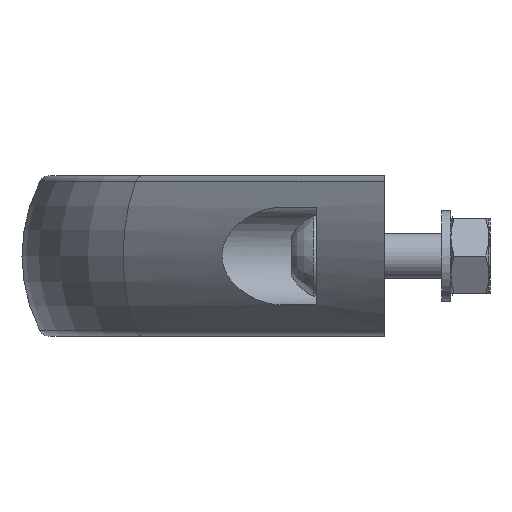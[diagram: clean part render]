
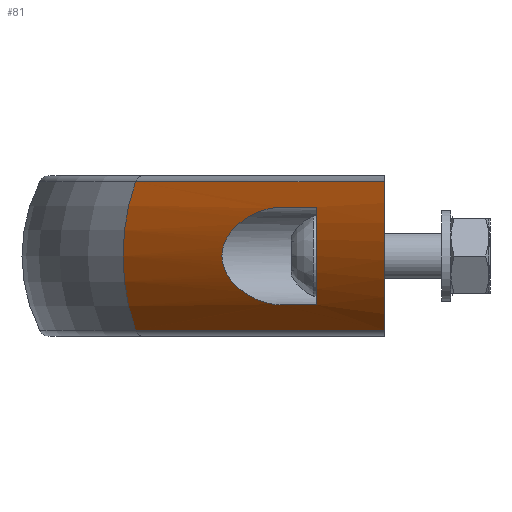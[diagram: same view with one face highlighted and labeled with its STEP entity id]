
A CAD part, left-side view. The second image highlights one B-rep face of the part: STEP entity #81.
In plain terms, the highlighted cylindrical face has radius 28.5 mm (diameter 57 mm), a partial arc.
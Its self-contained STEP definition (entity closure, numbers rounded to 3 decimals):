
#81 = ADVANCED_FACE( '', ( #217, #218 ), #219, .T. );
#217 = FACE_OUTER_BOUND( '', #510, .T. );
#218 = FACE_BOUND( '', #511, .T. );
#219 = CYLINDRICAL_SURFACE( '', #512, 28.5 );
#510 = EDGE_LOOP( '', ( #925, #926, #927, #928 ) );
#511 = EDGE_LOOP( '', ( #929, #930, #931, #932 ) );
#512 = AXIS2_PLACEMENT_3D( '', #933, #934, #935 );
#925 = ORIENTED_EDGE( '', *, *, #1792, .F. );
#926 = ORIENTED_EDGE( '', *, *, #1793, .T. );
#927 = ORIENTED_EDGE( '', *, *, #1794, .F. );
#928 = ORIENTED_EDGE( '', *, *, #1789, .F. );
#929 = ORIENTED_EDGE( '', *, *, #1795, .F. );
#930 = ORIENTED_EDGE( '', *, *, #1796, .F. );
#931 = ORIENTED_EDGE( '', *, *, #1797, .F. );
#932 = ORIENTED_EDGE( '', *, *, #1798, .F. );
#933 = CARTESIAN_POINT( '', ( -248.43, -69.007, 0. ) );
#934 = DIRECTION( '', ( -0.707, -0.707, 0. ) );
#935 = DIRECTION( '', ( -0.707, 0.707, 0. ) );
#1789 = EDGE_CURVE( '', #2083, #2086, #2087, .T. );
#1792 = EDGE_CURVE( '', #2091, #2083, #2092, .T. );
#1793 = EDGE_CURVE( '', #2091, #2093, #2094, .T. );
#1794 = EDGE_CURVE( '', #2086, #2093, #2095, .T. );
#1795 = EDGE_CURVE( '', #2096, #2097, #2098, .F. );
#1796 = EDGE_CURVE( '', #2099, #2096, #2100, .T. );
#1797 = EDGE_CURVE( '', #2101, #2099, #2102, .T. );
#1798 = EDGE_CURVE( '', #2097, #2101, #2103, .T. );
#2083 = VERTEX_POINT( '', #2632 );
#2086 = VERTEX_POINT( '', #2635 );
#2087 = LINE( '', #2636, #2637 );
#2091 = VERTEX_POINT( '', #2642 );
#2092 = ELLIPSE( '', #2643, 40.305, 28.5 );
#2093 = VERTEX_POINT( '', #2644 );
#2094 = LINE( '', #2645, #2646 );
#2095 = CIRCLE( '', #2647, 28.5 );
#2096 = VERTEX_POINT( '', #2648 );
#2097 = VERTEX_POINT( '', #2649 );
#2098 = LINE( '', #2650, #2651 );
#2099 = VERTEX_POINT( '', #2652 );
#2100 = B_SPLINE_CURVE_WITH_KNOTS( '', 3, ( #2653, #2654, #2655, #2656, #2657, #2658, #2659, #2660, #2661, #2662, #2663, #2664, #2665, #2666, #2667, #2668, #2669, #2670, #2671, #2672, #2673, #2674, #2675, #2676, #2677, #2678, #2679, #2680, #2681, #2682, #2683, #2684, #2685, #2686, #2687, #2688, #2689, #2690, #2691, #2692, #2693, #2694, #2695, #2696, #2697, #2698, #2699, #2700, #2701, #2702, #2703, #2704, #2705, #2706 ), .UNSPECIFIED., .F., .F., ( 4, 2, 2, 2, 2, 2, 2, 2, 2, 2, 2, 2, 2, 2, 2, 2, 2, 2, 2, 2, 2, 2, 2, 2, 2, 2, 4 ), ( 0.011, 0.013, 0.015, 0.017, 0.018, 0.02, 0.021, 0.022, 0.024, 0.025, 0.026, 0.027, 0.028, 0.028, 0.029, 0.031, 0.032, 0.033, 0.034, 0.035, 0.037, 0.038, 0.039, 0.041, 0.044, 0.045, 0.046 ), .UNSPECIFIED. );
#2101 = VERTEX_POINT( '', #2707 );
#2102 = LINE( '', #2708, #2709 );
#2103 = ELLIPSE( '', #2710, 40.305, 28.5 );
#2632 = CARTESIAN_POINT( '', ( -215.359, 0., -12.906 ) );
#2635 = CARTESIAN_POINT( '', ( -172.117, 43.242, -12.906 ) );
#2636 = CARTESIAN_POINT( '', ( -266.398, -51.039, -12.906 ) );
#2637 = VECTOR( '', #3357, 1000. );
#2642 = CARTESIAN_POINT( '', ( -215.359, 0., 12.906 ) );
#2643 = AXIS2_PLACEMENT_3D( '', #3362, #3363, #3364 );
#2644 = CARTESIAN_POINT( '', ( -172.117, 43.242, 12.906 ) );
#2645 = CARTESIAN_POINT( '', ( -266.398, -51.039, 12.906 ) );
#2646 = VECTOR( '', #3365, 1000. );
#2647 = AXIS2_PLACEMENT_3D( '', #3366, #3367, #3368 );
#2648 = CARTESIAN_POINT( '', ( -200., 17.893, -8.5 ) );
#2649 = CARTESIAN_POINT( '', ( -206.093, 11.8, -8.5 ) );
#2650 = CARTESIAN_POINT( '', ( -267.665, -49.772, -8.5 ) );
#2651 = VECTOR( '', #3369, 1000. );
#2652 = CARTESIAN_POINT( '', ( -200., 17.893, 8.5 ) );
#2653 = CARTESIAN_POINT( '', ( -200., 17.893, 8.5 ) );
#2654 = CARTESIAN_POINT( '', ( -199.492, 18.402, 8.5 ) );
#2655 = CARTESIAN_POINT( '', ( -198.997, 18.917, 8.455 ) );
#2656 = CARTESIAN_POINT( '', ( -198.03, 19.958, 8.283 ) );
#2657 = CARTESIAN_POINT( '', ( -197.559, 20.484, 8.157 ) );
#2658 = CARTESIAN_POINT( '', ( -196.866, 21.28, 7.905 ) );
#2659 = CARTESIAN_POINT( '', ( -196.639, 21.546, 7.811 ) );
#2660 = CARTESIAN_POINT( '', ( -196.194, 22.073, 7.604 ) );
#2661 = CARTESIAN_POINT( '', ( -195.977, 22.334, 7.491 ) );
#2662 = CARTESIAN_POINT( '', ( -195.336, 23.114, 7.123 ) );
#2663 = CARTESIAN_POINT( '', ( -194.927, 23.626, 6.84 ) );
#2664 = CARTESIAN_POINT( '', ( -194.34, 24.377, 6.346 ) );
#2665 = CARTESIAN_POINT( '', ( -194.148, 24.624, 6.171 ) );
#2666 = CARTESIAN_POINT( '', ( -193.775, 25.113, 5.794 ) );
#2667 = CARTESIAN_POINT( '', ( -193.592, 25.354, 5.591 ) );
#2668 = CARTESIAN_POINT( '', ( -193.066, 26.055, 4.947 ) );
#2669 = CARTESIAN_POINT( '', ( -192.744, 26.492, 4.47 ) );
#2670 = CARTESIAN_POINT( '', ( -192.319, 27.078, 3.653 ) );
#2671 = CARTESIAN_POINT( '', ( -192.189, 27.259, 3.367 ) );
#2672 = CARTESIAN_POINT( '', ( -191.956, 27.584, 2.766 ) );
#2673 = CARTESIAN_POINT( '', ( -191.854, 27.727, 2.451 ) );
#2674 = CARTESIAN_POINT( '', ( -191.683, 27.969, 1.786 ) );
#2675 = CARTESIAN_POINT( '', ( -191.615, 28.064, 1.44 ) );
#2676 = CARTESIAN_POINT( '', ( -191.547, 28.161, 0.911 ) );
#2677 = CARTESIAN_POINT( '', ( -191.53, 28.186, 0.733 ) );
#2678 = CARTESIAN_POINT( '', ( -191.506, 28.219, 0.372 ) );
#2679 = CARTESIAN_POINT( '', ( -191.5, 28.228, 0.188 ) );
#2680 = CARTESIAN_POINT( '', ( -191.5, 28.228, -0.357 ) );
#2681 = CARTESIAN_POINT( '', ( -191.523, 28.196, -0.715 ) );
#2682 = CARTESIAN_POINT( '', ( -191.612, 28.068, -1.423 ) );
#2683 = CARTESIAN_POINT( '', ( -191.68, 27.973, -1.772 ) );
#2684 = CARTESIAN_POINT( '', ( -191.849, 27.734, -2.435 ) );
#2685 = CARTESIAN_POINT( '', ( -191.952, 27.59, -2.754 ) );
#2686 = CARTESIAN_POINT( '', ( -192.186, 27.263, -3.361 ) );
#2687 = CARTESIAN_POINT( '', ( -192.316, 27.083, -3.646 ) );
#2688 = CARTESIAN_POINT( '', ( -192.596, 26.697, -4.186 ) );
#2689 = CARTESIAN_POINT( '', ( -192.746, 26.491, -4.441 ) );
#2690 = CARTESIAN_POINT( '', ( -193.066, 26.057, -4.924 ) );
#2691 = CARTESIAN_POINT( '', ( -193.235, 25.829, -5.154 ) );
#2692 = CARTESIAN_POINT( '', ( -193.759, 25.131, -5.797 ) );
#2693 = CARTESIAN_POINT( '', ( -194.131, 24.644, -6.17 ) );
#2694 = CARTESIAN_POINT( '', ( -194.72, 23.891, -6.666 ) );
#2695 = CARTESIAN_POINT( '', ( -194.921, 23.636, -6.82 ) );
#2696 = CARTESIAN_POINT( '', ( -195.334, 23.12, -7.109 ) );
#2697 = CARTESIAN_POINT( '', ( -195.547, 22.858, -7.244 ) );
#2698 = CARTESIAN_POINT( '', ( -196.193, 22.071, -7.616 ) );
#2699 = CARTESIAN_POINT( '', ( -196.636, 21.546, -7.821 ) );
#2700 = CARTESIAN_POINT( '', ( -197.548, 20.496, -8.153 ) );
#2701 = CARTESIAN_POINT( '', ( -198.018, 19.972, -8.28 ) );
#2702 = CARTESIAN_POINT( '', ( -198.744, 19.188, -8.41 ) );
#2703 = CARTESIAN_POINT( '', ( -198.991, 18.928, -8.444 ) );
#2704 = CARTESIAN_POINT( '', ( -199.491, 18.408, -8.488 ) );
#2705 = CARTESIAN_POINT( '', ( -199.745, 18.148, -8.5 ) );
#2706 = CARTESIAN_POINT( '', ( -200., 17.893, -8.5 ) );
#2707 = CARTESIAN_POINT( '', ( -206.093, 11.8, 8.5 ) );
#2708 = CARTESIAN_POINT( '', ( -267.665, -49.772, 8.5 ) );
#2709 = VECTOR( '', #3370, 1000. );
#2710 = AXIS2_PLACEMENT_3D( '', #3371, #3372, #3373 );
#3357 = DIRECTION( '', ( 0.707, 0.707, 0. ) );
#3362 = CARTESIAN_POINT( '', ( -179.423, 0., 0. ) );
#3363 = DIRECTION( '', ( 0., -1., 0. ) );
#3364 = DIRECTION( '', ( 1., 0., 0. ) );
#3365 = DIRECTION( '', ( 0.707, 0.707, 0. ) );
#3366 = CARTESIAN_POINT( '', ( -154.149, 25.274, 0. ) );
#3367 = DIRECTION( '', ( 0.707, 0.707, 0. ) );
#3368 = DIRECTION( '', ( 0., 0., -1. ) );
#3369 = DIRECTION( '', ( 0.707, 0.707, 0. ) );
#3370 = DIRECTION( '', ( 0.707, 0.707, 0. ) );
#3371 = CARTESIAN_POINT( '', ( -167.623, 11.8, 0. ) );
#3372 = DIRECTION( '', ( 0., 1., 0. ) );
#3373 = DIRECTION( '', ( 1., 0., 0. ) );
